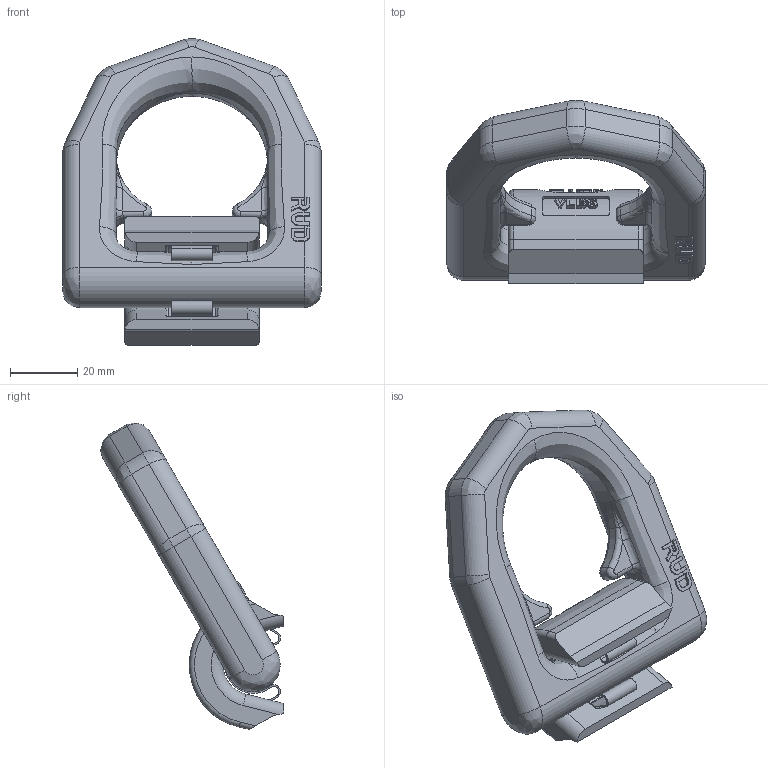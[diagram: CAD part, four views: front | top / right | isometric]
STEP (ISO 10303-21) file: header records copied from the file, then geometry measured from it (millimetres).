
FILE_DESCRIPTION((''),'2;1');
FILE_NAME('001-M34884-P3_ASM','2017-10-05T',('anja.joas'),(''),'PRO/ENGINEER BY PARAMETRIC TECHNOLOGY CORPORATION, 2011490','PRO/ENGINEER BY PARAMETRIC TECHNOLOGY CORPORATION, 2011490','');
FILE_SCHEMA(('CONFIG_CONTROL_DESIGN'));
Length unit declared in the file: millimetre
Products named in the file (4): 001-M34884-P2; 001-M34884-P1; 001-M35147-RT331; 001-M34884-P3_ASM
Assembly tree (3 placements, depth 2):
  001-M34884-P3_ASM
    001-M34884-P2
    001-M34884-P1
    001-M35147-RT331
Bounding box: 77 x 54.45 x 91.26 mm (x, y, z)
Volume: 71976.9 mm3; surface area: 21784.4 mm2
Topology: 3 solids, 3 shells, 452 faces, 1182 edges, 752 vertices
Faces by surface type: plane 172, cylinder 105, extrusion 87, bspline 62, torus 26
Entity records: 26892 total; most frequent: CARTESIAN_POINT 16383, ORIENTED_EDGE 2364, DIRECTION 1833, EDGE_CURVE 1182, VERTEX_POINT 752, VECTOR 629, AXIS2_PLACEMENT_3D 602, LINE 542
